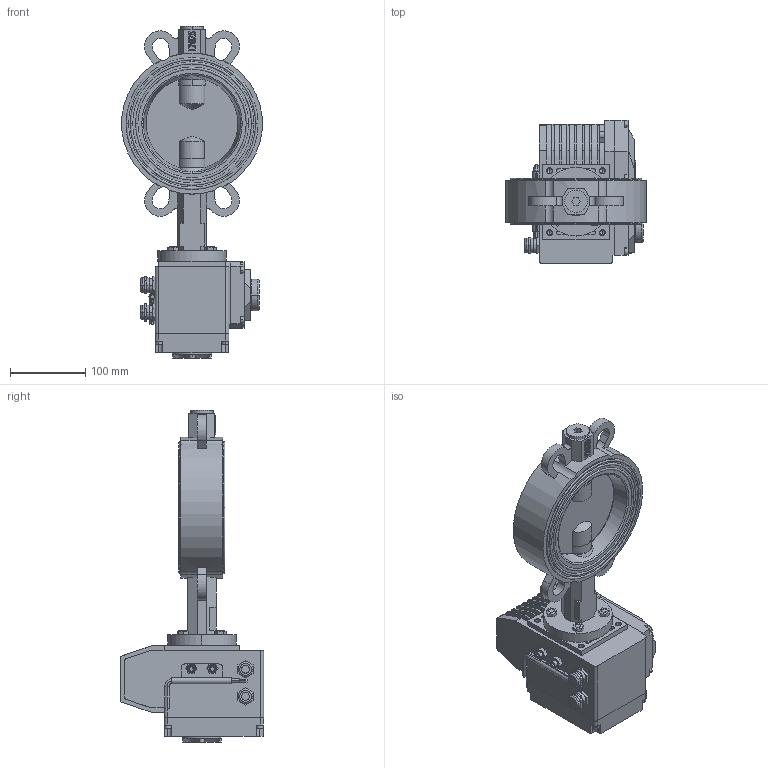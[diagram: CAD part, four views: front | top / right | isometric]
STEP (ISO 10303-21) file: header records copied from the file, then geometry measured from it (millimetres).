
FILE_DESCRIPTION((''),'2;1');
FILE_NAME('VBS_EAR_T_ASM','2025-02-22T',('AMD'),(''),'PRO/ENGINEER BY PARAMETRIC TECHNOLOGY CORPORATION, 2008020','PRO/ENGINEER BY PARAMETRIC TECHNOLOGY CORPORATION, 2008020','');
FILE_SCHEMA(('CONFIG_CONTROL_DESIGN'));
Length unit declared in the file: millimetre
Products named in the file (24): KORPUS; REZ; DISK; SHTIR_1; ZAGLUSHKA; O-RING; SHTIR_2; SHAIBA_RAZREZ; SHAIBA; KOLCO_30_GOST13943; VTULKA; MANZET_REZ; SB_ASM; B-7798-M8-25; DET_1; V-11738-M5; V-11738-M4; DET_2; KREPLENIE; KLUCH; DET_3; G-5915-M8; ELECTROPRIVOD_ASM; VBS_EAR_T_ASM
Assembly tree (45 placements, depth 3):
  VBS_EAR_T_ASM
    SB_ASM
      KORPUS
      REZ
      DISK
      SHTIR_1
      ZAGLUSHKA
      O-RING  x2
      SHTIR_2
      SHAIBA_RAZREZ
      SHAIBA  x2
      KOLCO_30_GOST13943
      VTULKA  x5
      MANZET_REZ
    B-7798-M8-25  x4
    ELECTROPRIVOD_ASM
      DET_1
      V-11738-M5  x10
      V-11738-M4  x4
      DET_2
      KREPLENIE
      KLUCH
      DET_3
      G-5915-M8  x2
Bounding box: 186.31 x 190 x 440.5 mm (x, y, z)
Volume: 3524640.6 mm3; surface area: 554183.2 mm2
Topology: 43 solids, 82 shells, 1706 faces, 4403 edges, 2891 vertices
Faces by surface type: plane 1088, cylinder 482, cone 98, torus 38
Entity records: 44484 total; most frequent: CARTESIAN_POINT 8329, DIRECTION 7583, ORIENTED_EDGE 7254, EDGE_CURVE 3675, VECTOR 2625, LINE 2625, AXIS2_PLACEMENT_3D 2479, VERTEX_POINT 2429
